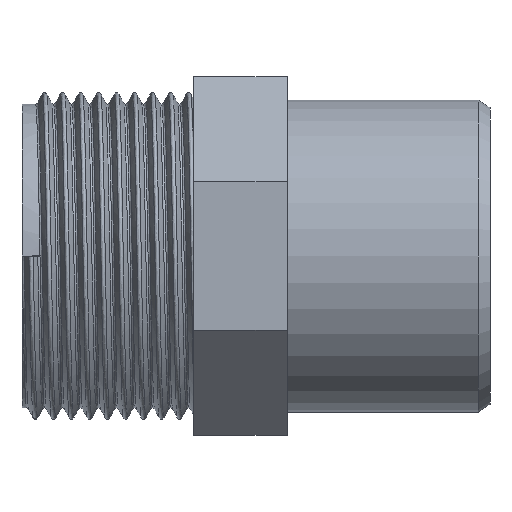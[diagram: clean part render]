
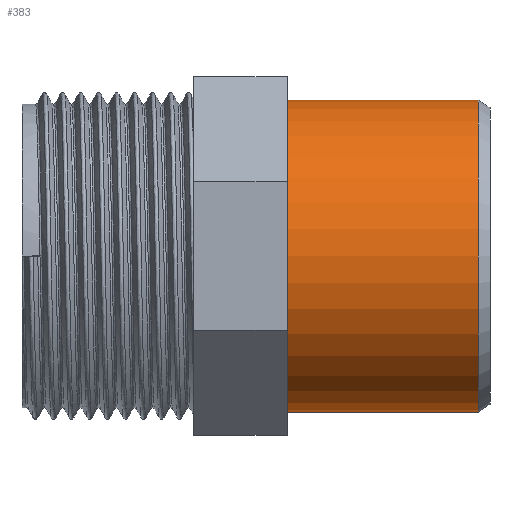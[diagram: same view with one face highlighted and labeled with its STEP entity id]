
A CAD part, left-side view. The second image highlights one B-rep face of the part: STEP entity #383.
In plain terms, the highlighted cylindrical face has radius 20 mm (diameter 40 mm), a full revolution.
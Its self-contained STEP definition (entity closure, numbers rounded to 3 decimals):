
#100=CYLINDRICAL_SURFACE('',#413,20.);
#106=FACE_BOUND('',#145,.T.);
#117=FACE_OUTER_BOUND('',#144,.T.);
#144=EDGE_LOOP('',(#281));
#145=EDGE_LOOP('',(#282));
#179=CIRCLE('',#411,20.);
#181=CIRCLE('',#414,20.);
#192=VERTEX_POINT('',#543);
#194=VERTEX_POINT('',#548);
#228=EDGE_CURVE('',#192,#192,#179,.T.);
#230=EDGE_CURVE('',#194,#194,#181,.T.);
#281=ORIENTED_EDGE('',*,*,#230,.F.);
#282=ORIENTED_EDGE('',*,*,#228,.F.);
#383=ADVANCED_FACE('',(#117,#106),#100,.T.);
#411=AXIS2_PLACEMENT_3D('',#544,#448,#449);
#413=AXIS2_PLACEMENT_3D('',#547,#452,#453);
#414=AXIS2_PLACEMENT_3D('',#549,#454,#455);
#448=DIRECTION('center_axis',(0.,-1.,0.));
#449=DIRECTION('ref_axis',(-1.,0.,0.));
#452=DIRECTION('center_axis',(0.,-1.,0.));
#453=DIRECTION('ref_axis',(-1.,0.,0.));
#454=DIRECTION('center_axis',(0.,1.,0.));
#455=DIRECTION('ref_axis',(-1.,0.,0.));
#543=CARTESIAN_POINT('',(20.,-30.5,0.));
#544=CARTESIAN_POINT('Origin',(0.,-30.5,0.));
#547=CARTESIAN_POINT('Origin',(0.,-6.,0.));
#548=CARTESIAN_POINT('',(20.,-6.,0.));
#549=CARTESIAN_POINT('Origin',(0.,-6.,0.));
